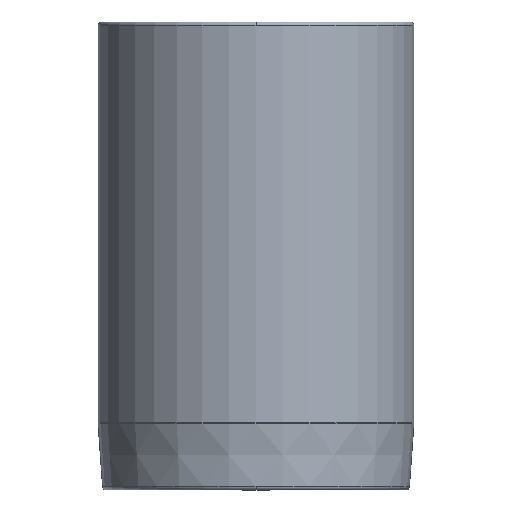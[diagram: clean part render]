
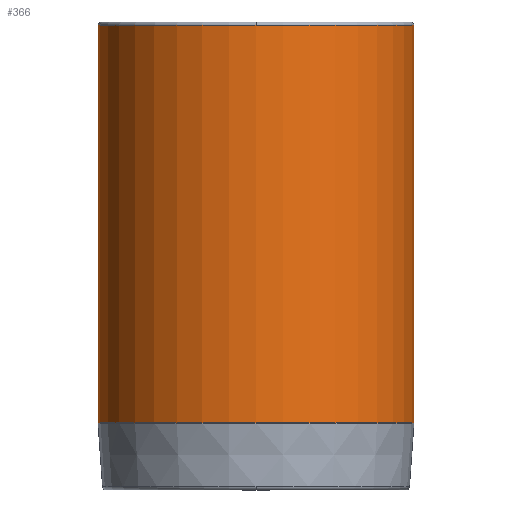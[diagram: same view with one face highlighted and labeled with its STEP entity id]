
A CAD part, front view. The second image highlights one B-rep face of the part: STEP entity #366.
In plain terms, the highlighted cylindrical face has radius 23.625 mm (diameter 47.25 mm), a partial arc.
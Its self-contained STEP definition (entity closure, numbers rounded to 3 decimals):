
#271=CARTESIAN_POINT('',(0.0,-23.625,33.5));
#272=VERTEX_POINT('',#271);
#298=CARTESIAN_POINT('',(-23.625,0.,33.5));
#299=VERTEX_POINT('',#298);
#307=CARTESIAN_POINT('',(0.0,0.,33.5));
#308=DIRECTION('',(0.0,0.0,1.0));
#309=DIRECTION('',(1.0,0.0,0.0));
#310=AXIS2_PLACEMENT_3D('',#307,#308,#309);
#311=CIRCLE('',#310,23.625);
#312=EDGE_CURVE('',#299,#272,#311,.T.);
#317=CARTESIAN_POINT('',(0.0,0.,3.767));
#318=DIRECTION('',(0.0,0.,1.0));
#319=DIRECTION('',(1.0,0.0,0.0));
#320=AXIS2_PLACEMENT_3D('',#317,#318,#319);
#321=CYLINDRICAL_SURFACE('',#320,23.625);
#322=CARTESIAN_POINT('',(23.625,0.,33.5));
#323=VERTEX_POINT('',#322);
#324=CARTESIAN_POINT('',(23.625,0.,-25.965));
#325=VERTEX_POINT('',#324);
#326=CARTESIAN_POINT('',(23.625,0.,33.5));
#327=DIRECTION('',(0.0,0.0,-1.0));
#328=VECTOR('',#327,59.465);
#329=LINE('',#326,#328);
#330=EDGE_CURVE('',#323,#325,#329,.T.);
#331=ORIENTED_EDGE('',*,*,#330,.F.);
#332=CARTESIAN_POINT('',(0.0,0.,33.5));
#333=DIRECTION('',(0.0,0.0,1.0));
#334=DIRECTION('',(1.0,0.0,0.0));
#335=AXIS2_PLACEMENT_3D('',#332,#333,#334);
#336=CIRCLE('',#335,23.625);
#337=EDGE_CURVE('',#272,#323,#336,.T.);
#338=ORIENTED_EDGE('',*,*,#337,.F.);
#339=ORIENTED_EDGE('',*,*,#312,.F.);
#340=CARTESIAN_POINT('',(-23.625,0.,-25.965));
#341=VERTEX_POINT('',#340);
#342=CARTESIAN_POINT('',(-23.625,0.,33.5));
#343=DIRECTION('',(0.0,0.0,-1.0));
#344=VECTOR('',#343,59.465);
#345=LINE('',#342,#344);
#346=EDGE_CURVE('',#299,#341,#345,.T.);
#347=ORIENTED_EDGE('',*,*,#346,.T.);
#348=CARTESIAN_POINT('',(0.0,-23.625,-25.965));
#349=VERTEX_POINT('',#348);
#350=CARTESIAN_POINT('',(0.0,0.,-25.965));
#351=DIRECTION('',(0.0,0.0,1.0));
#352=DIRECTION('',(1.0,0.0,0.0));
#353=AXIS2_PLACEMENT_3D('',#350,#351,#352);
#354=CIRCLE('',#353,23.625);
#355=EDGE_CURVE('',#341,#349,#354,.T.);
#356=ORIENTED_EDGE('',*,*,#355,.T.);
#357=CARTESIAN_POINT('',(0.0,0.,-25.965));
#358=DIRECTION('',(0.0,0.0,1.0));
#359=DIRECTION('',(1.0,0.0,0.0));
#360=AXIS2_PLACEMENT_3D('',#357,#358,#359);
#361=CIRCLE('',#360,23.625);
#362=EDGE_CURVE('',#349,#325,#361,.T.);
#363=ORIENTED_EDGE('',*,*,#362,.T.);
#364=EDGE_LOOP('',(#331,#338,#339,#347,#356,#363));
#365=FACE_OUTER_BOUND('',#364,.T.);
#366=ADVANCED_FACE('',(#365),#321,.T.);
